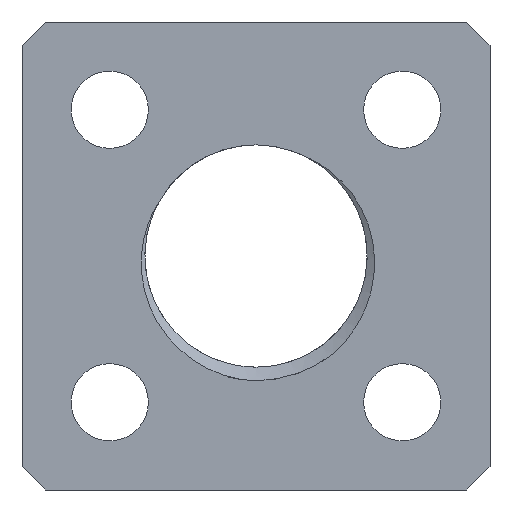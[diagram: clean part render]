
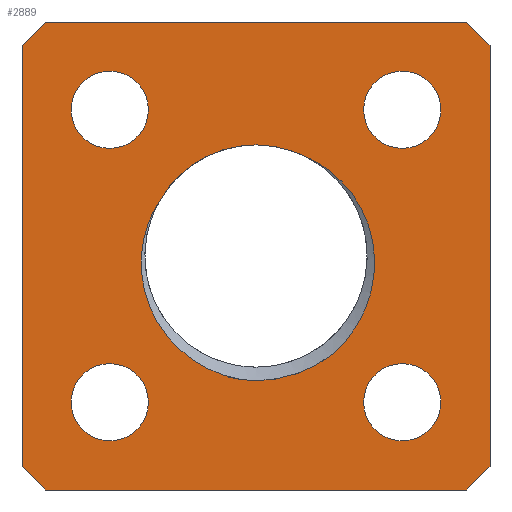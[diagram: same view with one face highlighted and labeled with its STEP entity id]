
A CAD part, front view. The second image highlights one B-rep face of the part: STEP entity #2889.
In plain terms, the highlighted planar face has unit normal (0, -1, 0).
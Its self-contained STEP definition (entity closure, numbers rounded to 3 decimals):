
#529=CARTESIAN_POINT('',(-12.5,0.,12.5));
#530=DIRECTION('',(0.,1.,0.));
#531=DIRECTION('',(0.,0.,1.));
#532=AXIS2_PLACEMENT_3D('',#529,#530,#531);
#534=CARTESIAN_POINT('',(-12.5,0.,12.5));
#535=DIRECTION('',(0.,1.,0.));
#536=DIRECTION('',(0.,0.,-1.));
#537=AXIS2_PLACEMENT_3D('',#534,#535,#536);
#539=CARTESIAN_POINT('',(12.5,0.,12.5));
#540=DIRECTION('',(0.,1.,0.));
#541=DIRECTION('',(0.,0.,1.));
#542=AXIS2_PLACEMENT_3D('',#539,#540,#541);
#544=CARTESIAN_POINT('',(12.5,0.,12.5));
#545=DIRECTION('',(0.,1.,0.));
#546=DIRECTION('',(0.,0.,-1.));
#547=AXIS2_PLACEMENT_3D('',#544,#545,#546);
#549=CARTESIAN_POINT('',(12.5,0.,-12.5));
#550=DIRECTION('',(0.,1.,0.));
#551=DIRECTION('',(0.,0.,1.));
#552=AXIS2_PLACEMENT_3D('',#549,#550,#551);
#554=CARTESIAN_POINT('',(12.5,0.,-12.5));
#555=DIRECTION('',(0.,1.,0.));
#556=DIRECTION('',(0.,0.,-1.));
#557=AXIS2_PLACEMENT_3D('',#554,#555,#556);
#559=CARTESIAN_POINT('',(-12.5,0.,-12.5));
#560=DIRECTION('',(0.,1.,0.));
#561=DIRECTION('',(0.,0.,1.));
#562=AXIS2_PLACEMENT_3D('',#559,#560,#561);
#564=CARTESIAN_POINT('',(-12.5,0.,-12.5));
#565=DIRECTION('',(0.,1.,0.));
#566=DIRECTION('',(0.,0.,-1.));
#567=AXIS2_PLACEMENT_3D('',#564,#565,#566);
#569=CARTESIAN_POINT('',(0.,0.,0.));
#570=DIRECTION('',(0.,1.,0.));
#571=DIRECTION('',(0.,0.,1.));
#572=AXIS2_PLACEMENT_3D('',#569,#570,#571);
#574=CARTESIAN_POINT('',(0.,0.,0.));
#575=DIRECTION('',(0.,1.,0.));
#576=DIRECTION('',(-0.875,0.,0.484));
#577=AXIS2_PLACEMENT_3D('',#574,#575,#576);
#579=CARTESIAN_POINT('',(-1.198,0.,
-10.578));
#580=CARTESIAN_POINT('',(-1.778,0.,
-10.48));
#581=CARTESIAN_POINT('',(-2.896,0.,
-10.193));
#582=CARTESIAN_POINT('',(-4.456,0.,
-9.514));
#583=CARTESIAN_POINT('',(-5.896,0.,
-8.577));
#584=CARTESIAN_POINT('',(-7.13,0.,
-7.449));
#585=CARTESIAN_POINT('',(-8.178,0.,
-6.122));
#586=CARTESIAN_POINT('',(-8.977,0.,
-4.679));
#587=CARTESIAN_POINT('',(-9.531,0.,
-3.111));
#588=CARTESIAN_POINT('',(-9.812,0.,
-1.508));
#589=CARTESIAN_POINT('',(-9.833,0.,
0.099));
#590=CARTESIAN_POINT('',(-9.595,0.,
1.676));
#591=CARTESIAN_POINT('',(-9.097,0.,
3.2));
#592=CARTESIAN_POINT('',(-8.603,0.,
4.142));
#593=CARTESIAN_POINT('',(-8.314,0.,
4.597));
#595=CARTESIAN_POINT('',(6.613,0.,-8.342));
#596=CARTESIAN_POINT('',(6.174,0.,-8.69));
#597=CARTESIAN_POINT('',(5.254,0.,-9.308));
#598=CARTESIAN_POINT('',(3.736,0.,
-10.015));
#599=CARTESIAN_POINT('',(2.129,0.,-10.475));
#600=CARTESIAN_POINT('',(0.466,0.,
-10.679));
#601=CARTESIAN_POINT('',(-0.642,0.,
-10.641));
#602=CARTESIAN_POINT('',(-1.198,0.,
-10.578));
#604=DIRECTION('',(0.707,0.,-0.707));
#605=VECTOR('',#604,2.828);
#606=CARTESIAN_POINT('',(-20.,0.,-18.));
#607=LINE('',#606,#605);
#608=DIRECTION('',(0.,0.,1.));
#609=VECTOR('',#608,36.);
#610=CARTESIAN_POINT('',(-20.,0.,-18.));
#611=LINE('',#610,#609);
#612=DIRECTION('',(-0.707,0.,-0.707));
#613=VECTOR('',#612,2.828);
#614=CARTESIAN_POINT('',(-18.,0.,20.));
#615=LINE('',#614,#613);
#616=DIRECTION('',(1.,0.,0.));
#617=VECTOR('',#616,36.);
#618=CARTESIAN_POINT('',(-18.,0.,20.));
#619=LINE('',#618,#617);
#620=DIRECTION('',(-0.707,0.,0.707));
#621=VECTOR('',#620,2.828);
#622=CARTESIAN_POINT('',(20.,0.,18.));
#623=LINE('',#622,#621);
#624=DIRECTION('',(0.,0.,-1.));
#625=VECTOR('',#624,36.);
#626=CARTESIAN_POINT('',(20.,0.,18.));
#627=LINE('',#626,#625);
#628=DIRECTION('',(0.707,0.,0.707));
#629=VECTOR('',#628,2.828);
#630=CARTESIAN_POINT('',(18.,0.,-20.));
#631=LINE('',#630,#629);
#632=DIRECTION('',(-1.,0.,0.));
#633=VECTOR('',#632,36.);
#634=CARTESIAN_POINT('',(18.,0.,-20.));
#635=LINE('',#634,#633);
#938=CARTESIAN_POINT('',(6.613,0.,-8.342));
#939=CARTESIAN_POINT('',(7.017,0.,-7.984));
#940=CARTESIAN_POINT('',(7.757,0.,-7.22));
#941=CARTESIAN_POINT('',(8.683,0.,-5.921));
#942=CARTESIAN_POINT('',(9.39,0.,-4.525));
#943=CARTESIAN_POINT('',(9.879,0.,-3.032));
#944=CARTESIAN_POINT('',(10.131,0.,-1.514));
#945=CARTESIAN_POINT('',(10.159,0.,0.014));
#946=CARTESIAN_POINT('',(9.954,0.,1.538));
#947=CARTESIAN_POINT('',(9.526,0.,2.983));
#948=CARTESIAN_POINT('',(8.877,0.,4.362));
#949=CARTESIAN_POINT('',(8.052,0.,5.592));
#950=CARTESIAN_POINT('',(7.047,0.,6.69));
#951=CARTESIAN_POINT('',(5.904,0.,7.605));
#952=CARTESIAN_POINT('',(5.066,0.,8.086));
#953=CARTESIAN_POINT('',(4.628,0.,8.297));
#1007=CARTESIAN_POINT('',(6.613,0.,-8.342));
#1787=CARTESIAN_POINT('',(4.628,0.,8.297));
#1870=CARTESIAN_POINT('',(-12.5,0.,15.8));
#1871=CARTESIAN_POINT('',(-12.5,0.,9.2));
#1872=VERTEX_POINT('',#1870);
#1873=VERTEX_POINT('',#1871);
#1881=CARTESIAN_POINT('',(12.5,0.,-15.8));
#1883=VERTEX_POINT('',#1881);
#1897=VERTEX_POINT('',#1787);
#1924=CARTESIAN_POINT('',(-12.5,0.,-9.2));
#1925=VERTEX_POINT('',#1924);
#1930=CARTESIAN_POINT('',(-12.5,0.,-15.8));
#1931=VERTEX_POINT('',#1930);
#1949=CARTESIAN_POINT('',(0.,0.,9.5));
#1951=VERTEX_POINT('',#1949);
#1955=CARTESIAN_POINT('',(12.5,0.,-9.2));
#1956=VERTEX_POINT('',#1955);
#1961=CARTESIAN_POINT('',(-8.314,0.,4.597));
#1962=VERTEX_POINT('',#1961);
#1971=VERTEX_POINT('',#1007);
#1976=VERTEX_POINT('',#602);
#1984=CARTESIAN_POINT('',(12.5,0.,9.2));
#1985=CARTESIAN_POINT('',(12.5,0.,15.8));
#1986=VERTEX_POINT('',#1984);
#1987=VERTEX_POINT('',#1985);
#1992=CARTESIAN_POINT('',(-20.,0.,-18.));
#1993=CARTESIAN_POINT('',(-18.,0.,-20.));
#1994=VERTEX_POINT('',#1992);
#1995=VERTEX_POINT('',#1993);
#2000=CARTESIAN_POINT('',(18.,0.,-20.));
#2001=CARTESIAN_POINT('',(20.,0.,-18.));
#2002=VERTEX_POINT('',#2000);
#2003=VERTEX_POINT('',#2001);
#2008=CARTESIAN_POINT('',(20.,0.,18.));
#2009=CARTESIAN_POINT('',(18.,0.,20.));
#2010=VERTEX_POINT('',#2008);
#2011=VERTEX_POINT('',#2009);
#2016=CARTESIAN_POINT('',(-18.,0.,20.));
#2017=CARTESIAN_POINT('',(-20.,0.,18.));
#2018=VERTEX_POINT('',#2016);
#2019=VERTEX_POINT('',#2017);
#2831=CARTESIAN_POINT('',(0.,0.,0.));
#2832=DIRECTION('',(0.,1.,0.));
#2833=DIRECTION('',(0.,0.,1.));
#2834=AXIS2_PLACEMENT_3D('',#2831,#2832,#2833);
#2835=PLANE('',#2834);
#2837=ORIENTED_EDGE('',*,*,#2836,.F.);
#2839=ORIENTED_EDGE('',*,*,#2838,.T.);
#2841=ORIENTED_EDGE('',*,*,#2840,.F.);
#2843=ORIENTED_EDGE('',*,*,#2842,.T.);
#2845=ORIENTED_EDGE('',*,*,#2844,.F.);
#2847=ORIENTED_EDGE('',*,*,#2846,.T.);
#2849=ORIENTED_EDGE('',*,*,#2848,.F.);
#2851=ORIENTED_EDGE('',*,*,#2850,.T.);
#2852=EDGE_LOOP('',(#2837,#2839,#2841,#2843,#2845,#2847,#2849,#2851));
#2853=FACE_OUTER_BOUND('',#2852,.F.);
#2855=ORIENTED_EDGE('',*,*,#2854,.F.);
#2857=ORIENTED_EDGE('',*,*,#2856,.F.);
#2858=EDGE_LOOP('',(#2855,#2857));
#2859=FACE_BOUND('',#2858,.F.);
#2861=ORIENTED_EDGE('',*,*,#2860,.F.);
#2863=ORIENTED_EDGE('',*,*,#2862,.F.);
#2864=EDGE_LOOP('',(#2861,#2863));
#2865=FACE_BOUND('',#2864,.F.);
#2867=ORIENTED_EDGE('',*,*,#2866,.F.);
#2869=ORIENTED_EDGE('',*,*,#2868,.F.);
#2870=EDGE_LOOP('',(#2867,#2869));
#2871=FACE_BOUND('',#2870,.F.);
#2873=ORIENTED_EDGE('',*,*,#2872,.T.);
#2875=ORIENTED_EDGE('',*,*,#2874,.F.);
#2877=ORIENTED_EDGE('',*,*,#2876,.F.);
#2878=ORIENTED_EDGE('',*,*,#2804,.F.);
#2880=ORIENTED_EDGE('',*,*,#2879,.F.);
#2881=EDGE_LOOP('',(#2873,#2875,#2877,#2878,#2880));
#2882=FACE_BOUND('',#2881,.F.);
#2884=ORIENTED_EDGE('',*,*,#2883,.F.);
#2886=ORIENTED_EDGE('',*,*,#2885,.F.);
#2887=EDGE_LOOP('',(#2884,#2886));
#2888=FACE_BOUND('',#2887,.F.);
#2889=ADVANCED_FACE('',(#2853,#2859,#2865,#2871,#2882,#2888),#2835,.F.);
#533=CIRCLE('',#532,3.3);
#538=CIRCLE('',#537,3.3);
#543=CIRCLE('',#542,3.3);
#548=CIRCLE('',#547,3.3);
#553=CIRCLE('',#552,3.3);
#558=CIRCLE('',#557,3.3);
#563=CIRCLE('',#562,3.3);
#568=CIRCLE('',#567,3.3);
#573=CIRCLE('',#572,9.5);
#578=CIRCLE('',#577,9.5);
#594=B_SPLINE_CURVE_WITH_KNOTS('',3,(#579,#580,#581,#582,#583,#584,#585,#586,
#587,#588,#589,#590,#591,#592,#593),.UNSPECIFIED.,.F.,.F.,(4,1,1,1,1,1,1,1,1,1,
1,1,4),(0.,0.083,0.167,0.25,0.333,
0.417,0.5,0.583,0.667,0.75,
0.833,0.917,1.),.UNSPECIFIED.);
#603=B_SPLINE_CURVE_WITH_KNOTS('',3,(#595,#596,#597,#598,#599,#600,#601,#602),
.UNSPECIFIED.,.F.,.F.,(4,1,1,1,1,4),(0.,0.2,0.4,0.6,0.8,1.),
.UNSPECIFIED.);
#954=B_SPLINE_CURVE_WITH_KNOTS('',3,(#938,#939,#940,#941,#942,#943,#944,#945,
#946,#947,#948,#949,#950,#951,#952,#953),.UNSPECIFIED.,.F.,.F.,(4,1,1,1,1,1,1,1,
1,1,1,1,1,4),(0.,0.077,0.154,0.231,
0.308,0.385,0.462,0.538,
0.615,0.692,0.769,0.846,
0.923,1.),.UNSPECIFIED.);
#2804=EDGE_CURVE('',#1976,#1962,#594,.T.);
#2836=EDGE_CURVE('',#1994,#1995,#607,.T.);
#2838=EDGE_CURVE('',#1994,#2019,#611,.T.);
#2840=EDGE_CURVE('',#2018,#2019,#615,.T.);
#2842=EDGE_CURVE('',#2018,#2011,#619,.T.);
#2844=EDGE_CURVE('',#2010,#2011,#623,.T.);
#2846=EDGE_CURVE('',#2010,#2003,#627,.T.);
#2848=EDGE_CURVE('',#2002,#2003,#631,.T.);
#2850=EDGE_CURVE('',#2002,#1995,#635,.T.);
#2854=EDGE_CURVE('',#1987,#1986,#543,.T.);
#2856=EDGE_CURVE('',#1986,#1987,#548,.T.);
#2860=EDGE_CURVE('',#1956,#1883,#553,.T.);
#2862=EDGE_CURVE('',#1883,#1956,#558,.T.);
#2866=EDGE_CURVE('',#1925,#1931,#563,.T.);
#2868=EDGE_CURVE('',#1931,#1925,#568,.T.);
#2872=EDGE_CURVE('',#1971,#1897,#954,.T.);
#2874=EDGE_CURVE('',#1951,#1897,#573,.T.);
#2876=EDGE_CURVE('',#1962,#1951,#578,.T.);
#2879=EDGE_CURVE('',#1971,#1976,#603,.T.);
#2883=EDGE_CURVE('',#1872,#1873,#533,.T.);
#2885=EDGE_CURVE('',#1873,#1872,#538,.T.);
